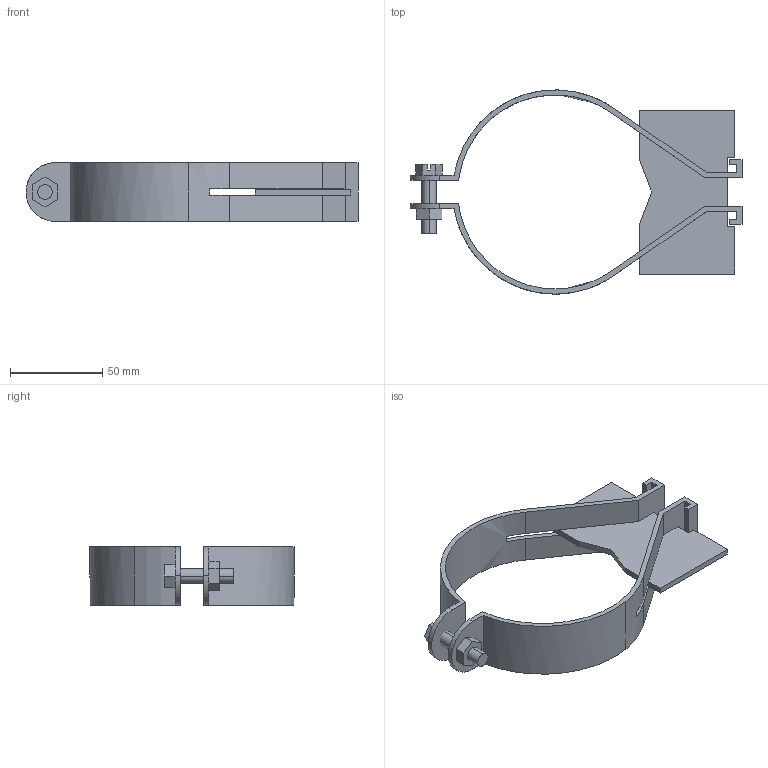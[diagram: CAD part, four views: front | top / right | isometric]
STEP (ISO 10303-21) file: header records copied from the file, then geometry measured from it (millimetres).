
FILE_DESCRIPTION(('TurboCAD Mac Pro'),'Build 980');
FILE_NAME('P1572.stp',' ',(''),(''),'ACIS Interop','IMSI','TurboCAD Mac Pro BY IMSI, INCORPORATED');
FILE_SCHEMA(('automotive_design'));
Length unit declared in the file: inch
Products named in the file (5): 1; 2; 3; 4; 5
Bounding box: 179.9 x 110.64 x 31.74 mm (x, y, z)
Volume: 54414.3 mm3; surface area: 42602.8 mm2
Topology: 5 solids, 5 shells, 92 faces, 255 edges, 170 vertices
Faces by surface type: plane 72, bspline 20
Entity records: 3909 total; most frequent: CARTESIAN_POINT 816, ORIENTED_EDGE 510, DIRECTION 383, EDGE_CURVE 255, LINE 205, VECTOR 205, VERTEX_POINT 170, STYLED_ITEM 97
